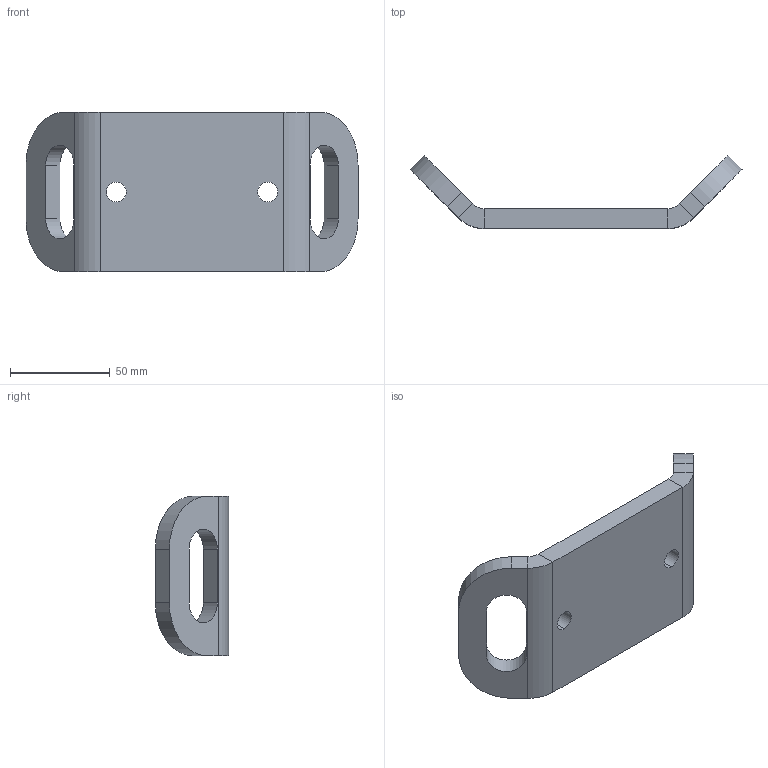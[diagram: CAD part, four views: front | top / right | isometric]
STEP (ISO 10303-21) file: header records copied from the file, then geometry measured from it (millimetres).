
FILE_DESCRIPTION (( 'STEP AP203' ), '1' );
FILE_NAME ('platine1.STEP', '2020-06-30T15:07:16', ( '' ), ( '' ), 'SwSTEP 2.0', 'SolidWorks 2020', '' );
FILE_SCHEMA (( 'CONFIG_CONTROL_DESIGN' ));
Length unit declared in the file: millimetre
Products named in the file (1): platine1
Bounding box: 166.64 x 36.82 x 80 mm (x, y, z)
Volume: 120822.9 mm3; surface area: 31912.2 mm2
Topology: 1 solids, 1 shells, 38 faces, 92 edges, 56 vertices
Faces by surface type: plane 22, cylinder 16
Entity records: 1193 total; most frequent: DIRECTION 202, CARTESIAN_POINT 187, ORIENTED_EDGE 184, EDGE_CURVE 92, AXIS2_PLACEMENT_3D 71, VECTOR 60, LINE 60, VERTEX_POINT 56
